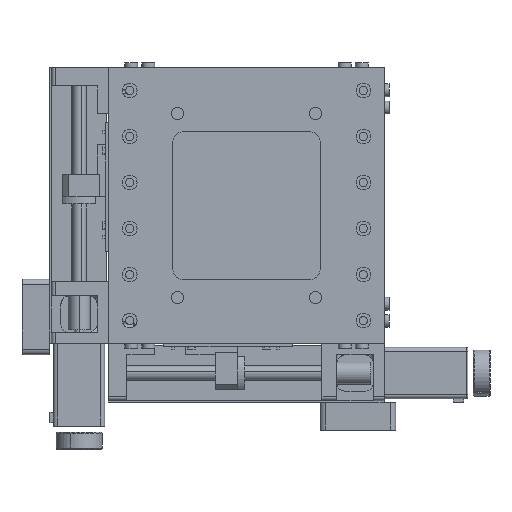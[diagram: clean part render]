
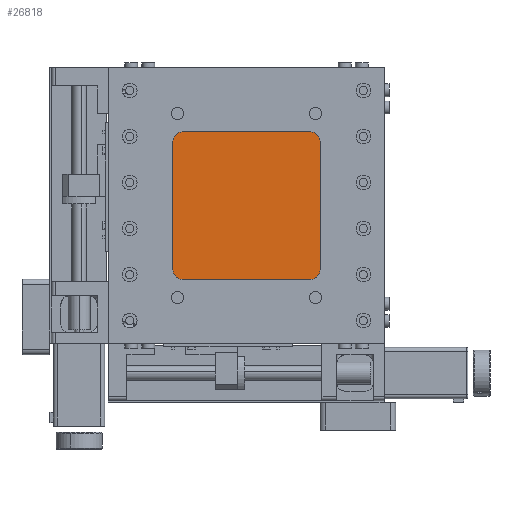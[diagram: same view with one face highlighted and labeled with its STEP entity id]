
A CAD part, front view. The second image highlights one B-rep face of the part: STEP entity #26818.
In plain terms, the highlighted planar face has unit normal (0, -1, 0).
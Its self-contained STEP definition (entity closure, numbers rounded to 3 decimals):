
#905 = DIRECTION ( 'NONE',  ( 0., 0., 1. ) ) ;
#1473 = CARTESIAN_POINT ( 'NONE',  ( -47.5, 37., 42.5 ) ) ;
#2683 = AXIS2_PLACEMENT_3D ( 'NONE', #26802, #12700, #7937 ) ;
#4175 = CARTESIAN_POINT ( 'NONE',  ( 42.5, 37., -42.5 ) ) ;
#4244 = LINE ( 'NONE', #17718, #22132 ) ;
#4423 = CARTESIAN_POINT ( 'NONE',  ( 47.5, 37., -47.5 ) ) ;
#4432 = VERTEX_POINT ( 'NONE', #15121 ) ;
#4828 = ORIENTED_EDGE ( 'NONE', *, *, #27407, .T. ) ;
#5265 = DIRECTION ( 'NONE',  ( 0., 0., 1. ) ) ;
#6829 = VERTEX_POINT ( 'NONE', #22339 ) ;
#6933 = EDGE_CURVE ( 'NONE', #10655, #27280, #20977, .T. ) ;
#7015 = CARTESIAN_POINT ( 'NONE',  ( 42.5, 37., 47.5 ) ) ;
#7204 = ORIENTED_EDGE ( 'NONE', *, *, #26030, .F. ) ;
#7909 = AXIS2_PLACEMENT_3D ( 'NONE', #8151, #16999, #5265 ) ;
#7937 = DIRECTION ( 'NONE',  ( 0., 0., 1. ) ) ;
#8151 = CARTESIAN_POINT ( 'NONE',  ( -42.5, 37., 42.5 ) ) ;
#8205 = EDGE_LOOP ( 'NONE', ( #30358, #14004, #27609, #4828, #27197, #27143, #7204, #29901 ) ) ;
#8658 = DIRECTION ( 'NONE',  ( 1., 0., 0. ) ) ;
#9417 = DIRECTION ( 'NONE',  ( 0., 0., -1. ) ) ;
#10252 = CIRCLE ( 'NONE', #7909, 5. ) ;
#10585 = AXIS2_PLACEMENT_3D ( 'NONE', #13153, #15122, #905 ) ;
#10655 = VERTEX_POINT ( 'NONE', #16669 ) ;
#12700 = DIRECTION ( 'NONE',  ( 0., 1., 0. ) ) ;
#12799 = PLANE ( 'NONE',  #2683 ) ;
#13153 = CARTESIAN_POINT ( 'NONE',  ( 42.5, 37., 42.5 ) ) ;
#13220 = AXIS2_PLACEMENT_3D ( 'NONE', #4175, #16114, #16213 ) ;
#13633 = CARTESIAN_POINT ( 'NONE',  ( -47.5, 37., 47.5 ) ) ;
#13779 = CARTESIAN_POINT ( 'NONE',  ( 47.5, 37., 42.5 ) ) ;
#14004 = ORIENTED_EDGE ( 'NONE', *, *, #17681, .T. ) ;
#14029 = EDGE_CURVE ( 'NONE', #25680, #6829, #4244, .T. ) ;
#15099 = DIRECTION ( 'NONE',  ( 0., 0., 1. ) ) ;
#15121 = CARTESIAN_POINT ( 'NONE',  ( 47.5, 37., -42.5 ) ) ;
#15122 = DIRECTION ( 'NONE',  ( 0., -1., 0. ) ) ;
#15137 = EDGE_CURVE ( 'NONE', #29221, #26632, #19108, .T. ) ;
#16114 = DIRECTION ( 'NONE',  ( 0., -1., 0. ) ) ;
#16213 = DIRECTION ( 'NONE',  ( 0., 0., 1. ) ) ;
#16669 = CARTESIAN_POINT ( 'NONE',  ( -47.5, 37., -42.5 ) ) ;
#16999 = DIRECTION ( 'NONE',  ( 0., -1., 0. ) ) ;
#17523 = VERTEX_POINT ( 'NONE', #23435 ) ;
#17681 = EDGE_CURVE ( 'NONE', #10655, #6829, #27497, .T. ) ;
#17718 = CARTESIAN_POINT ( 'NONE',  ( -47.5, 37., -47.5 ) ) ;
#19108 = CIRCLE ( 'NONE', #10585, 5. ) ;
#19190 = VECTOR ( 'NONE', #8658, 1000. ) ;
#19241 = EDGE_CURVE ( 'NONE', #17523, #27280, #10252, .T. ) ;
#19506 = LINE ( 'NONE', #4423, #29579 ) ;
#20952 = VECTOR ( 'NONE', #24427, 1000. ) ;
#20977 = LINE ( 'NONE', #26706, #20952 ) ;
#21945 = CIRCLE ( 'NONE', #13220, 5. ) ;
#22132 = VECTOR ( 'NONE', #29506, 1000. ) ;
#22339 = CARTESIAN_POINT ( 'NONE',  ( -42.5, 37., -47.5 ) ) ;
#23427 = AXIS2_PLACEMENT_3D ( 'NONE', #30845, #24630, #15099 ) ;
#23435 = CARTESIAN_POINT ( 'NONE',  ( -42.5, 37., 47.5 ) ) ;
#24427 = DIRECTION ( 'NONE',  ( 0., 0., 1. ) ) ;
#24630 = DIRECTION ( 'NONE',  ( 0., -1., 0. ) ) ;
#25516 = LINE ( 'NONE', #13633, #19190 ) ;
#25680 = VERTEX_POINT ( 'NONE', #28246 ) ;
#26030 = EDGE_CURVE ( 'NONE', #17523, #26632, #25516, .T. ) ;
#26630 = EDGE_CURVE ( 'NONE', #29221, #4432, #19506, .T. ) ;
#26632 = VERTEX_POINT ( 'NONE', #7015 ) ;
#26706 = CARTESIAN_POINT ( 'NONE',  ( -47.5, 37., -47.5 ) ) ;
#26802 = CARTESIAN_POINT ( 'NONE',  ( 0., 37., 0. ) ) ;
#26818 = ADVANCED_FACE ( 'NONE', ( #26874 ), #12799, .F. ) ;
#26874 = FACE_OUTER_BOUND ( 'NONE', #8205, .T. ) ;
#27143 = ORIENTED_EDGE ( 'NONE', *, *, #15137, .T. ) ;
#27197 = ORIENTED_EDGE ( 'NONE', *, *, #26630, .F. ) ;
#27280 = VERTEX_POINT ( 'NONE', #1473 ) ;
#27407 = EDGE_CURVE ( 'NONE', #25680, #4432, #21945, .T. ) ;
#27497 = CIRCLE ( 'NONE', #23427, 5. ) ;
#27609 = ORIENTED_EDGE ( 'NONE', *, *, #14029, .F. ) ;
#28246 = CARTESIAN_POINT ( 'NONE',  ( 42.5, 37., -47.5 ) ) ;
#29221 = VERTEX_POINT ( 'NONE', #13779 ) ;
#29506 = DIRECTION ( 'NONE',  ( -1., 0., 0. ) ) ;
#29579 = VECTOR ( 'NONE', #9417, 1000. ) ;
#29901 = ORIENTED_EDGE ( 'NONE', *, *, #19241, .T. ) ;
#30358 = ORIENTED_EDGE ( 'NONE', *, *, #6933, .F. ) ;
#30845 = CARTESIAN_POINT ( 'NONE',  ( -42.5, 37., -42.5 ) ) ;
